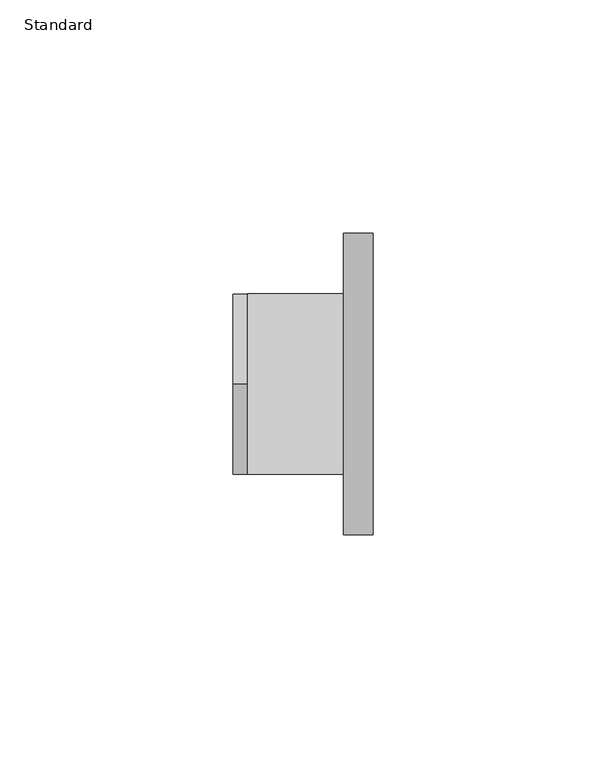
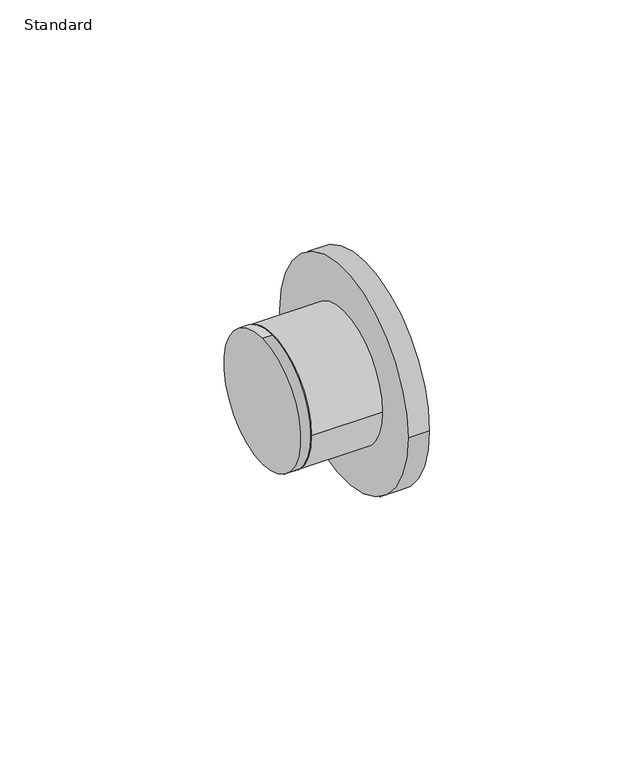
"""IFC4 building model written with IfcOpenShell, lengths in millimetres: pipe fitting geometry, Reducion Bushing_Lubrizol_CPVC_FlowGuard_MX : Standard."""

from ifc_helpers import new_model, si_unit, point, frame, origin, origin_2d, place, context, project, spatial, circle_curve, trimmed, segment, composite_curve, outline, extrude, source, transform, mapped, element, save


def standard_bbd5353f(model_context):
    return source(origin(), model_context, "Body", "SweptSolid", [
        extrude(outline(composite_curve([segment(trimmed(circle_curve(origin_2d(), 19.35), [point((-19.35, 0.0))], [point((19.35, 0.0))], False, "CARTESIAN"), True, "CONTINUOUS"), segment(trimmed(circle_curve(origin_2d(), 19.35), [point((19.35, 0.0))], [point((-19.35, 0.0))], False, "CARTESIAN"), True, "CONTINUOUS")], self_intersect=False)), frame((3.125, 0.0, 0.0), z_axis=(1.0, 0.0, 0.0), x_axis=(0.0, 1.0, 0.0)), (0.0, 0.0, 1.0), 20.65),
        extrude(outline(composite_curve([segment(trimmed(circle_curve(origin_2d(), 32.35), [point((-32.35, 0.0))], [point((32.35, 0.0))], False, "CARTESIAN"), True, "CONTINUOUS"), segment(trimmed(circle_curve(origin_2d(), 32.35), [point((32.35, 0.0))], [point((-32.35, 0.0))], False, "CARTESIAN"), True, "CONTINUOUS")], self_intersect=False)), frame((23.775, 0.0, 0.0), z_axis=(1.0, 0.0, 0.0), x_axis=(0.0, 1.0, 0.0)), (0.0, 0.0, 1.0), 6.25),
        extrude(outline(composite_curve([segment(trimmed(circle_curve(origin_2d(), 19.35), [point((0.0, 19.35))], [point((0.0, -19.35))], False, "CARTESIAN"), True, "CONTINUOUS"), segment(trimmed(circle_curve(origin_2d(), 19.35), [point((0.0, -19.35))], [point((0.0, 19.35))], False, "CARTESIAN"), True, "CONTINUOUS")], self_intersect=False)), frame((0.0, 0.0, 0.0), z_axis=(1.0, 0.0, 0.0), x_axis=(0.0, 1.0, 0.0)), (0.0, 0.0, 1.0), 3.125),
    ])


if __name__ == "__main__":
    model = new_model("IFC4")
    model_context = context("Model", 3, world=origin())
    ifc_project = project(units=[si_unit("LENGTHUNIT", "METRE", prefix="MILLI")], contexts=[model_context])
    site = spatial("IfcSite", under=ifc_project)
    building = spatial("IfcBuilding", under=site)
    placement = place(None, origin())
    standard_shape = standard_bbd5353f(model_context)
    element("IfcPipeFitting", 1, ObjectType="Reducion Bushing_Lubrizol_CPVC_FlowGuard_MX : Standard", at=placement, inside=building, context=model_context, shape_type="MappedRepresentation", body=[
        mapped(standard_shape, transform((0.0, 0.0, 0.0), x_axis=(1.0, 0.0, 0.0), y_axis=(0.0, 1.0, 0.0), z_axis=(0.0, 0.0, 1.0))),
    ])
    save(model, "model.ifc")
